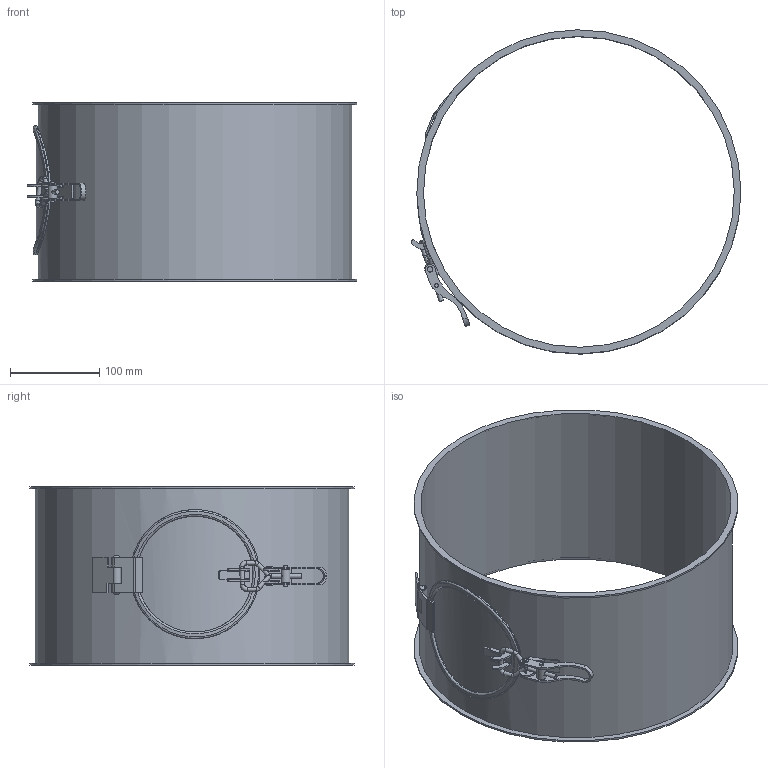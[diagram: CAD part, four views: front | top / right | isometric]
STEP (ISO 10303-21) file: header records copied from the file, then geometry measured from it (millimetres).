
FILE_DESCRIPTION((''),'2;1');
FILE_NAME('U:\Wolfgang\Marcel-3D\fertig\Kapitel 4\3511043.stp','2011-04-21T08:33:43',('TK1'),(''),'Autodesk Inventor 2010','Autodesk Inventor 2010','');
FILE_SCHEMA(('AUTOMOTIVE_DESIGN { 1 0 10303 214 1 1 1 1 }'));
Length unit declared in the file: millimetre
Products named in the file (15): 3511043 (Detailgenauigkeit1); 3511043-1; GelenkDeckel35b; GelenkDeckel1c; Deckel35; Deckel35b; GelenkDeckel35a; VerschlussDeckel35; dichtung35; Verschluss35; Verschluss35a; Verschluss1b; Verschluss1c; Verschluss1d; Verschluss1e
Assembly tree (15 placements, depth 3):
  3511043 (Detailgenauigkeit1)
    3511043-1
    GelenkDeckel35b
    GelenkDeckel1c
    Deckel35
      Deckel35b
      GelenkDeckel35a
      VerschlussDeckel35
      dichtung35
    Verschluss35
      Verschluss35a
      Verschluss1b
      Verschluss1c
      Verschluss1d  x2
      Verschluss1e
Bounding box: 370.45 x 363.99 x 200 mm (x, y, z)
Volume: 389348.6 mm3; surface area: 507977.2 mm2
Topology: 13 solids, 13 shells, 177 faces, 416 edges, 269 vertices
Faces by surface type: cylinder 81, plane 80, torus 9, bspline 5, sphere 2
Full cylindrical faces by diameter (mm): 2 x4, 4 x4, 5 x6, 6 x6, 6.2 x2, 10 x1, 115 x1, 130 x1, 135 x1, 145 x1, 349 x1, 352 x1, 364 x2
Entity records: 6900 total; most frequent: CARTESIAN_POINT 2643, DIRECTION 862, ORIENTED_EDGE 710, EDGE_CURVE 355, AXIS2_PLACEMENT_3D 341, VERTEX_POINT 252, EDGE_LOOP 241, VECTOR 180
